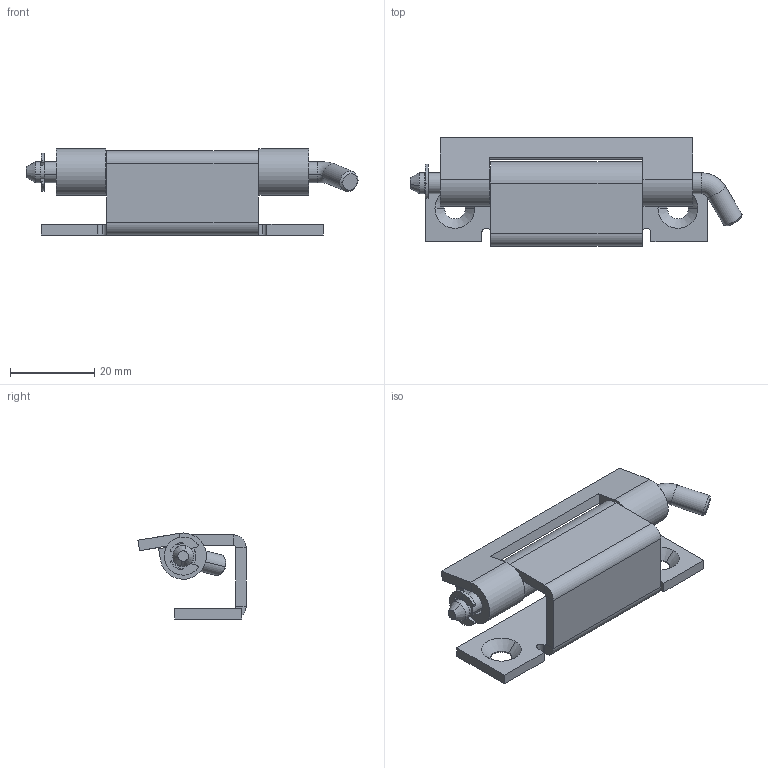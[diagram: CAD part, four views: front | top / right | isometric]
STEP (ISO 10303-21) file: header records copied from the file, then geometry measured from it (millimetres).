
FILE_DESCRIPTION (( 'STEP AP214' ), '1' );
FILE_NAME ('3.ST13.001.STEP', '2010-03-01T16:59:30', ( '£ukaszC' ), ( '' ), 'SwSTEP 2.0', 'SolidWorks 2008', '' );
FILE_SCHEMA (( 'AUTOMOTIVE_DESIGN' ));
Length unit declared in the file: millimetre
Products named in the file (5): 3B.St13.00.00.01_Domyœlna; DIN 6799 - 4_Domyœlna; 3B.St13.00.00.02_Domyœlna; Sworzeñ ST13_Domyœlna; 3.ST13.001
Assembly tree (4 placements, depth 2):
  3.ST13.001
    DIN 6799 - 4_Domyœlna
    3B.St13.00.00.02_Domyœlna
    Sworzeñ ST13_Domyœlna
    3B.St13.00.00.01_Domyœlna
Bounding box: 78.92 x 25.73 x 20.45 mm (x, y, z)
Volume: 10830.8 mm3; surface area: 10213.5 mm2
Topology: 4 solids, 4 shells, 109 faces, 263 edges, 164 vertices
Faces by surface type: plane 54, cylinder 45, cone 8, torus 2
Entity records: 3329 total; most frequent: DIRECTION 597, CARTESIAN_POINT 543, ORIENTED_EDGE 526, EDGE_CURVE 263, AXIS2_PLACEMENT_3D 218, VERTEX_POINT 164, VECTOR 161, LINE 161
